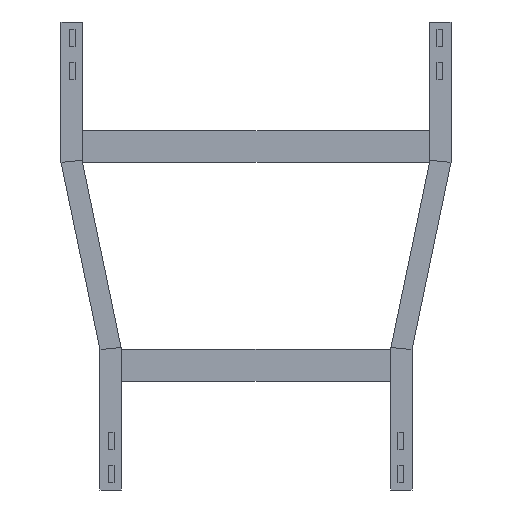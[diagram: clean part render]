
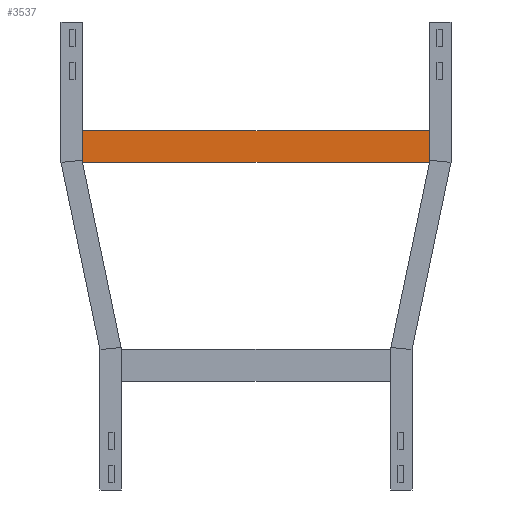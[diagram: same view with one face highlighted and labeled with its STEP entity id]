
A CAD part, front view. The second image highlights one B-rep face of the part: STEP entity #3537.
In plain terms, the highlighted planar face has unit normal (0, -1, 0).
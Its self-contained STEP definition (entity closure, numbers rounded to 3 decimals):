
#7 = EDGE_CURVE ( 'NONE', #2768, #892, #1678, .T. ) ;
#131 = PLANE ( 'NONE',  #2278 ) ;
#275 = ORIENTED_EDGE ( 'NONE', *, *, #354, .T. ) ;
#354 = EDGE_CURVE ( 'NONE', #3028, #492, #1031, .T. ) ;
#492 = VERTEX_POINT ( 'NONE', #3628 ) ;
#629 = CARTESIAN_POINT ( 'NONE',  ( 248., 0., -20.25 ) ) ;
#892 = VERTEX_POINT ( 'NONE', #629 ) ;
#1031 = LINE ( 'NONE', #2243, #3780 ) ;
#1085 = EDGE_CURVE ( 'NONE', #892, #492, #1247, .T. ) ;
#1247 = LINE ( 'NONE', #2468, #2827 ) ;
#1364 = FACE_OUTER_BOUND ( 'NONE', #3761, .T. ) ;
#1476 = DIRECTION ( 'NONE',  ( 0., 0., 1. ) ) ;
#1659 = VECTOR ( 'NONE', #2935, 1000. ) ;
#1667 = CARTESIAN_POINT ( 'NONE',  ( 248., 0., 20.25 ) ) ;
#1678 = LINE ( 'NONE', #2606, #1659 ) ;
#1772 = CARTESIAN_POINT ( 'NONE',  ( 248., 0., 20.25 ) ) ;
#1847 = DIRECTION ( 'NONE',  ( 0., 1., 0. ) ) ;
#1991 = ORIENTED_EDGE ( 'NONE', *, *, #1085, .F. ) ;
#2011 = ORIENTED_EDGE ( 'NONE', *, *, #7, .F. ) ;
#2156 = DIRECTION ( 'NONE',  ( -1., 0., 0. ) ) ;
#2243 = CARTESIAN_POINT ( 'NONE',  ( -248., 0., 20.25 ) ) ;
#2278 = AXIS2_PLACEMENT_3D ( 'NONE', #1667, #1847, #1476 ) ;
#2400 = CARTESIAN_POINT ( 'NONE',  ( -248., 0., 20.25 ) ) ;
#2468 = CARTESIAN_POINT ( 'NONE',  ( 248., 0., -20.25 ) ) ;
#2606 = CARTESIAN_POINT ( 'NONE',  ( 248., 0., 20.25 ) ) ;
#2768 = VERTEX_POINT ( 'NONE', #3208 ) ;
#2827 = VECTOR ( 'NONE', #2156, 1000. ) ;
#2935 = DIRECTION ( 'NONE',  ( 0., 0., -1. ) ) ;
#3028 = VERTEX_POINT ( 'NONE', #2400 ) ;
#3208 = CARTESIAN_POINT ( 'NONE',  ( 248., 0., 20.25 ) ) ;
#3253 = VECTOR ( 'NONE', #3620, 1000. ) ;
#3284 = EDGE_CURVE ( 'NONE', #2768, #3028, #3941, .T. ) ;
#3481 = DIRECTION ( 'NONE',  ( 0., 0., -1. ) ) ;
#3537 = ADVANCED_FACE ( 'NONE', ( #1364 ), #131, .F. ) ;
#3582 = ORIENTED_EDGE ( 'NONE', *, *, #3284, .T. ) ;
#3620 = DIRECTION ( 'NONE',  ( -1., 0., 0. ) ) ;
#3628 = CARTESIAN_POINT ( 'NONE',  ( -248., 0., -20.25 ) ) ;
#3761 = EDGE_LOOP ( 'NONE', ( #275, #1991, #2011, #3582 ) ) ;
#3780 = VECTOR ( 'NONE', #3481, 1000. ) ;
#3941 = LINE ( 'NONE', #1772, #3253 ) ;
